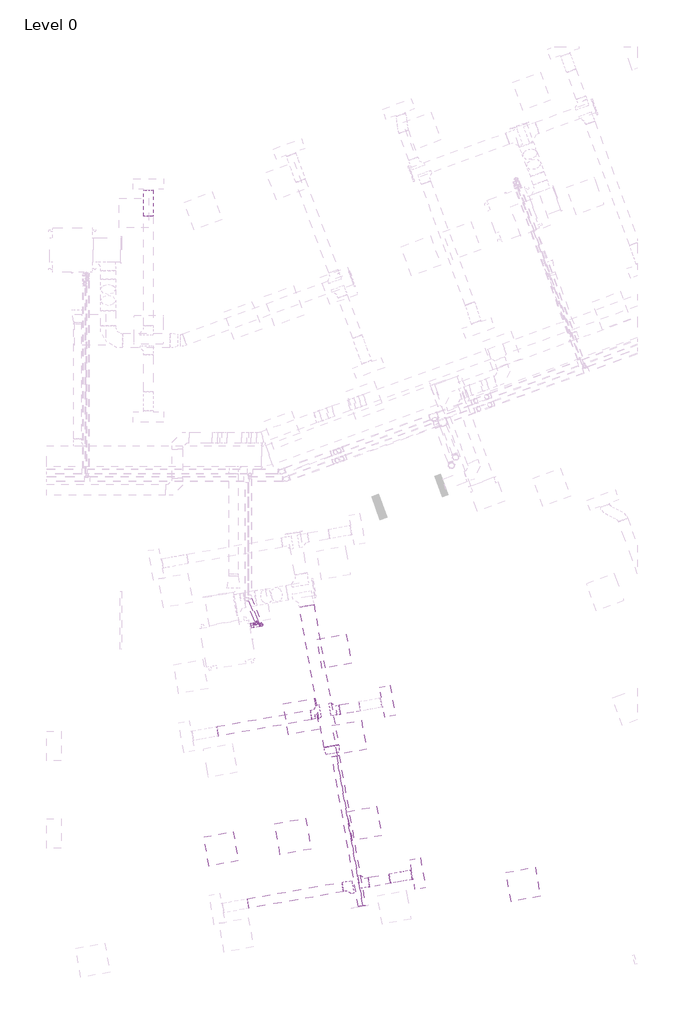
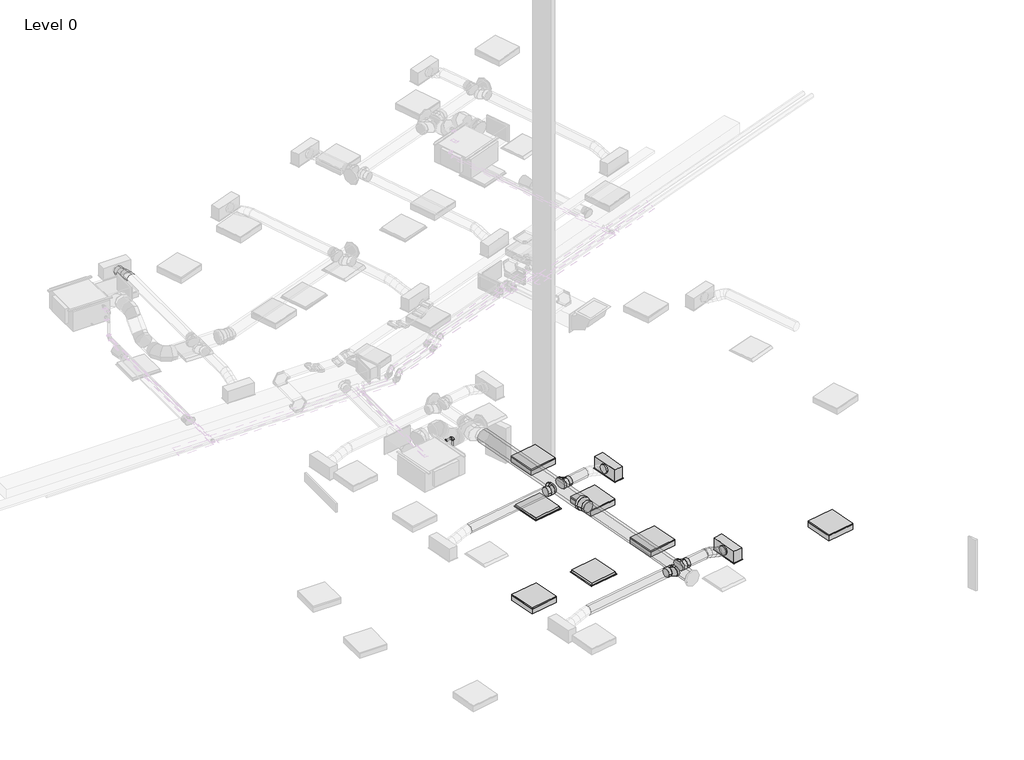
# One storey, part 18 of 34: 8 duct segments, 6 pipe fittings, 6 pipe segments, 5 duct fittings, 5 light fixtures, 4 air terminals.
"""IFC4 building model written with IfcOpenShell, lengths in millimetres."""

from ifc_helpers import new_model, si_unit, point, frame, frame_2d, origin, place, context, project, spatial, circle_curve, ellipse_curve, trimmed, segment, composite_curve, outline, extrude, transform, mapped, element, save
from ifc_brep_helpers import plane_surface, cylinder_surface, advanced_brep
from components import return_grille_rectangular_hosted_standard_7b12617c, supply_diffuser_with_plenum_linear_slot_hosted_8e4f2f20, dw144_round_shoe_branch_slip_joint1_standard_2_15a2edd8, dw144_round_shoe_branch_slip_joint1_standard_2_3a899113, dw144_round_taper_slip_joint_standard_7b2c0993, troffer_light_2x2_parabolic_2_x2_2_lamp_120v_6a063ff3, elbow_threaded_gmi_standard_b4aa7741, socket_reducing_threaded_gmi_standard_7a3748ab

model = new_model("IFC4")

# Units and contexts
model_context = context("Model", 3, world=origin())
ifc_project = project(units=[si_unit("LENGTHUNIT", "METRE", prefix="MILLI")], contexts=[model_context])

# Site, building, storey
site = spatial("IfcSite", under=ifc_project)
building = spatial("IfcBuilding", under=site)
storey = spatial("IfcBuildingStorey", under=building, Name="Level 0", Elevation=0.0)

# Air terminals
placement = place(None, origin())
return_grille_rectangular_hosted_standard_shape = return_grille_rectangular_hosted_standard_7b12617c(model_context)
element("IfcAirTerminal", 1, ObjectType="Return Grille - Rectangular - Hosted : Standard", at=placement, inside=storey, context=model_context, shape_type="MappedRepresentation", body=[
    mapped(return_grille_rectangular_hosted_standard_shape, transform((33736.3792363, 1334.082517, 2800.0), x_axis=(0.9848077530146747, 0.17364817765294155, 0.0), y_axis=(0.17364817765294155, -0.9848077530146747, 0.0), z_axis=(0.0, 0.0, -1.0))),
])
element("IfcAirTerminal", 2, ObjectType="Return Grille - Rectangular - Hosted : Standard", at=placement, inside=storey, context=model_context, shape_type="MappedRepresentation", body=[
    mapped(return_grille_rectangular_hosted_standard_shape, transform((33910.5082617, 3801.8100308, 2800.0), x_axis=(0.9848077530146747, 0.17364817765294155, 0.0), y_axis=(0.17364817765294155, -0.9848077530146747, 0.0), z_axis=(0.0, 0.0, -1.0))),
])
supply_diffuser_with_plenum_linear_slot_hosted_shape = supply_diffuser_with_plenum_linear_slot_hosted_8e4f2f20(model_context)
element("IfcAirTerminal", 3, ObjectType="Supply Diffuser with Plenum - Linear Slot - Hosted : 24\" x 8\"-200 In Inlet  4-Slot", at=placement, inside=storey, context=model_context, shape_type="MappedRepresentation", body=[
    mapped(supply_diffuser_with_plenum_linear_slot_hosted_shape, transform((35683.1622171, 4114.3767506, 2800.0), x_axis=(0.1736481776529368, -0.9848077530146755, 0.0), y_axis=(-0.9848077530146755, -0.1736481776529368, 0.0), z_axis=(0.0, 0.0, -1.0))),
])
element("IfcAirTerminal", 4, ObjectType="Supply Diffuser with Plenum - Linear Slot - Hosted : 24\" x 8\"-200 In Inlet  4-Slot", at=placement, inside=storey, context=model_context, shape_type="MappedRepresentation", body=[
    mapped(supply_diffuser_with_plenum_linear_slot_hosted_shape, transform((36308.2956567, 569.0688397, 2800.0), x_axis=(0.1736481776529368, -0.9848077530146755, 0.0), y_axis=(-0.9848077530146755, -0.1736481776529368, 0.0), z_axis=(0.0, 0.0, -1.0))),
])

# Duct fittings
dw144_round_shoe_branch_slip_joint1_standard_2_shape = dw144_round_shoe_branch_slip_joint1_standard_2_15a2edd8(model_context)
element("IfcDuctFitting", 5, ObjectType="DW144 Round Shoe Branch - Slip Joint1 : Standard 2", at=placement, inside=storey, context=model_context, shape_type="MappedRepresentation", body=[
    mapped(dw144_round_shoe_branch_slip_joint1_standard_2_shape, transform((35154.4321897, 365.6115785, 3072.2088531), x_axis=(0.9848077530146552, 0.17364817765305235, 0.0), y_axis=(0.17364817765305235, -0.9848077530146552, 0.0), z_axis=(0.0, 0.0, -1.0))),
])
element("IfcDuctFitting", 6, ObjectType="DW144 Round Shoe Branch - Slip Joint1 : Standard 2", at=placement, inside=storey, context=model_context, shape_type="MappedRepresentation", body=[
    mapped(dw144_round_shoe_branch_slip_joint1_standard_2_shape, transform((34908.2302515, 322.1995341, 3072.2088531), x_axis=(-0.9848077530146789, -0.17364817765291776, 0.0), y_axis=(-0.17364817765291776, 0.9848077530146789, 0.0), z_axis=(0.0, 0.0, -1.0))),
])
dw144_round_shoe_branch_slip_joint1_standard_2_2_shape = dw144_round_shoe_branch_slip_joint1_standard_2_3a899113(model_context)
element("IfcDuctFitting", 7, ObjectType="DW144 Round Shoe Branch - Slip Joint1 : Standard 2", at=placement, inside=storey, context=model_context, shape_type="MappedRepresentation", body=[
    mapped(dw144_round_shoe_branch_slip_joint1_standard_2_2_shape, transform((34258.4766181, 3863.1662405, 3072.2088531), x_axis=(-0.9848077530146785, -0.17364817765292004, 0.0), y_axis=(0.17364817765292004, -0.9848077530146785, 0.0), z_axis=(0.0, 0.0, 1.0))),
])
element("IfcDuctFitting", 8, ObjectType="DW144 Round Shoe Branch - Slip Joint1 : Standard 2", at=placement, inside=storey, context=model_context, shape_type="MappedRepresentation", body=[
    mapped(dw144_round_shoe_branch_slip_joint1_standard_2_2_shape, transform((34553.918944, 3915.2606938, 3072.2088531), x_axis=(0.9848077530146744, 0.17364817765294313, 0.0), y_axis=(0.17364817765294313, -0.9848077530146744, 0.0), z_axis=(0.0, 0.0, -1.0))),
])
dw144_round_taper_slip_joint_standard_shape = dw144_round_taper_slip_joint_standard_7b2c0993(model_context)
element("IfcDuctFitting", 9, ObjectType="DW144 Round Taper - Slip Joint : Standard", at=placement, inside=storey, context=model_context, shape_type="MappedRepresentation", body=[
    mapped(dw144_round_taper_slip_joint_standard_shape, transform((34529.2296476, 3191.465079, 3072.2088531), x_axis=(0.17364817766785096, -0.9848077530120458, 0.0), y_axis=(0.9848077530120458, 0.17364817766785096, 0.0), z_axis=(0.0, 0.0, 1.0))),
])

# Duct segments
element("IfcDuctSegment", 10, ObjectType="DW144 Segmented Bend / Shoe Branch", at=placement, inside=storey, context=model_context, shape_type="SweptSolid", body=[
    extrude(outline(composite_curve([segment(trimmed(circle_curve(frame_2d((0.0, -125.0)), 125.0), [point((-125.0, -125.0))], [point((0.0, 0.0))], False, "CARTESIAN"), True, "CONTINUOUS"), segment(trimmed(circle_curve(frame_2d((0.0, -125.0)), 125.0), [point((0.0, 0.0))], [point((125.0, -125.0))], False, "CARTESIAN"), True, "CONTINUOUS"), segment(trimmed(circle_curve(frame_2d((0.0, -125.0)), 125.0), [point((125.0, -125.0))], [point((0.0, -250.0))], False, "CARTESIAN"), True, "CONTINUOUS"), segment(trimmed(circle_curve(frame_2d((0.0, -125.0)), 125.0), [point((0.0, -250.0))], [point((-125.0, -125.0))], False, "CARTESIAN"), True, "CONTINUOUS")], self_intersect=False)), frame((35110.8297064, -106.9527609, 2947.2088531), z_axis=(-0.17364817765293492, 0.9848077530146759, 0.0), x_axis=(0.9848077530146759, 0.17364817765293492, 0.0)), (0.0, 0.0, 1.0), 3135.9999815),
])
element("IfcDuctSegment", 11, ObjectType="DW144 Segmented Bend / Shoe Branch", at=placement, inside=storey, context=model_context, shape_type="SweptSolid", body=[
    extrude(outline(composite_curve([segment(trimmed(circle_curve(frame_2d((0.0, 100.0)), 100.0), [point((100.0, 100.0))], [point((0.0, 0.0))], False, "CARTESIAN"), True, "CONTINUOUS"), segment(trimmed(circle_curve(frame_2d((0.0, 100.0)), 100.0), [point((0.0, 0.0))], [point((-100.0, 100.0))], False, "CARTESIAN"), True, "CONTINUOUS"), segment(trimmed(circle_curve(frame_2d((0.0, 100.0)), 100.0), [point((-100.0, 100.0))], [point((0.0, 200.0))], False, "CARTESIAN"), True, "CONTINUOUS"), segment(trimmed(circle_curve(frame_2d((0.0, 100.0)), 100.0), [point((0.0, 200.0))], [point((100.0, 100.0))], False, "CARTESIAN"), True, "CONTINUOUS")], self_intersect=False)), frame((34701.640107, 3941.3079204, 3172.2088531), z_axis=(0.9848077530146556, 0.1736481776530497, 0.0), x_axis=(0.1736481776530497, -0.9848077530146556, 0.0)), (0.0, 0.0, 1.0), 410.0),
])
element("IfcDuctSegment", 12, ObjectType="DW144 Segmented Bend / Shoe Branch", at=placement, inside=storey, context=model_context, shape_type="SweptSolid", body=[
    extrude(outline(composite_curve([segment(trimmed(circle_curve(frame_2d((0.0, -100.0)), 100.0), [point((-100.0, -100.0))], [point((0.0, 0.0))], False, "CARTESIAN"), True, "CONTINUOUS"), segment(trimmed(circle_curve(frame_2d((0.0, -100.0)), 100.0), [point((0.0, 0.0))], [point((100.0, -100.0))], False, "CARTESIAN"), True, "CONTINUOUS"), segment(trimmed(circle_curve(frame_2d((0.0, -100.0)), 100.0), [point((100.0, -100.0))], [point((0.0, -200.0))], False, "CARTESIAN"), True, "CONTINUOUS"), segment(trimmed(circle_curve(frame_2d((0.0, -100.0)), 100.0), [point((0.0, -200.0))], [point((-100.0, -100.0))], False, "CARTESIAN"), True, "CONTINUOUS")], self_intersect=False)), frame((32190.3803368, 3498.5050674, 2972.2088531), z_axis=(0.9848077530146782, 0.17364817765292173, 0.0), x_axis=(0.17364817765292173, -0.9848077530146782, 0.0)), (0.0, 0.0, 1.0), 1950.0),
])
element("IfcDuctSegment", 13, ObjectType="DW144 Segmented Bend / Shoe Branch", at=placement, inside=storey, context=model_context, shape_type="SweptSolid", body=[
    extrude(outline(composite_curve([segment(trimmed(circle_curve(frame_2d((0.0, -150.0)), 150.0), [point((-150.0, -150.0))], [point((0.0, 0.0))], False, "CARTESIAN"), True, "CONTINUOUS"), segment(trimmed(circle_curve(frame_2d((0.0, -150.0)), 150.0), [point((0.0, 0.0))], [point((150.0, -150.0))], False, "CARTESIAN"), True, "CONTINUOUS"), segment(trimmed(circle_curve(frame_2d((0.0, -150.0)), 150.0), [point((150.0, -150.0))], [point((0.0, -300.0))], False, "CARTESIAN"), True, "CONTINUOUS"), segment(trimmed(circle_curve(frame_2d((0.0, -150.0)), 150.0), [point((0.0, -300.0))], [point((-150.0, -150.0))], False, "CARTESIAN"), True, "CONTINUOUS")], self_intersect=False)), frame((34529.2296476, 3191.465079, 2922.2088531), z_axis=(-0.17364817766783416, 0.9848077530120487, 0.0), x_axis=(0.9848077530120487, 0.17364817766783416, 0.0)), (0.0, 0.0, 1.0), 2934.6959585),
])
element("IfcDuctSegment", 14, ObjectType="DW144 Segmented Bend / Shoe Branch", at=placement, inside=storey, context=model_context, shape_type="SweptSolid", body=[
    extrude(outline(composite_curve([segment(trimmed(circle_curve(frame_2d((0.0, -100.0)), 100.0), [point((-100.0, -100.0))], [point((0.0, 0.0))], False, "CARTESIAN"), True, "CONTINUOUS"), segment(trimmed(circle_curve(frame_2d((0.0, -100.0)), 100.0), [point((0.0, 0.0))], [point((100.0, -100.0))], False, "CARTESIAN"), True, "CONTINUOUS"), segment(trimmed(circle_curve(frame_2d((0.0, -100.0)), 100.0), [point((100.0, -100.0))], [point((0.0, -200.0))], False, "CARTESIAN"), True, "CONTINUOUS"), segment(trimmed(circle_curve(frame_2d((0.0, -100.0)), 100.0), [point((0.0, -200.0))], [point((-100.0, -100.0))], False, "CARTESIAN"), True, "CONTINUOUS")], self_intersect=False)), frame((35302.1533527, 391.6588051, 2972.2088531), z_axis=(0.9848077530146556, 0.17364817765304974, 0.0), x_axis=(0.17364817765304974, -0.9848077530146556, 0.0)), (0.0, 0.0, 1.0), 435.0),
])
element("IfcDuctSegment", 15, ObjectType="DW144 Segmented Bend / Shoe Branch", at=placement, inside=storey, context=model_context, shape_type="SweptSolid", body=[
    extrude(outline(composite_curve([segment(trimmed(circle_curve(frame_2d((0.0, 100.0)), 100.0), [point((100.0, 100.0))], [point((0.0, 0.0))], False, "CARTESIAN"), True, "CONTINUOUS"), segment(trimmed(circle_curve(frame_2d((0.0, 100.0)), 100.0), [point((0.0, 0.0))], [point((-100.0, 100.0))], False, "CARTESIAN"), True, "CONTINUOUS"), segment(trimmed(circle_curve(frame_2d((0.0, 100.0)), 100.0), [point((-100.0, 100.0))], [point((0.0, 200.0))], False, "CARTESIAN"), True, "CONTINUOUS"), segment(trimmed(circle_curve(frame_2d((0.0, 100.0)), 100.0), [point((0.0, 200.0))], [point((100.0, 100.0))], False, "CARTESIAN"), True, "CONTINUOUS")], self_intersect=False)), frame((32815.5137763, -46.8028435, 3172.2088531), z_axis=(0.9848077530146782, 0.17364817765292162, 0.0), x_axis=(0.17364817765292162, -0.9848077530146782, 0.0)), (0.0, 0.0, 1.0), 1975.0),
])
element("IfcDuctSegment", 16, ObjectType="Flex - Round", at=placement, inside=storey, context=model_context, shape_type="AdvancedBrep", body=[
    advanced_brep(
    [(30662.2000027, 14100.4916128, 3072.2088531), (30762.2000027, 14100.4916128, 2972.2088531), (30862.2000027, 14100.4916128, 3072.2088531), (30762.2000027, 14100.4916128, 3172.2088531), (30662.2000027, 14114.0357302, 3072.2088531), (30762.2000027, 14106.4797066, 2972.2088531), (30862.2000027, 14114.0357302, 3072.2088531), (30762.2000027, 14121.5917538, 3172.2088531), (30662.2000027, 14634.3000004, 2954.4), (30762.2000027, 14634.3000004, 3054.4), (30862.2000027, 14634.3000004, 2954.4), (30762.2000027, 14634.3000004, 2854.4), (30662.2000027, 14235.1479623, 3053.8012198), (30762.2000027, 14212.875909, 2956.0378831), (30862.2000027, 14235.1479623, 3053.8012198), (30762.2000027, 14257.4200155, 3151.5645566), (30662.2000027, 14367.3958066, 3013.3044266), (30762.2000027, 14338.1159448, 2917.6870134), (30862.2000027, 14367.3958066, 3013.3044266), (30762.2000027, 14396.6756684, 3108.9218397), (30662.2000027, 14499.643651, 2972.8076333), (30762.2000027, 14477.3715977, 2875.0442965), (30862.2000027, 14499.643651, 2972.8076333), (30762.2000027, 14521.9157042, 3070.5709701), (30662.2000027, 14620.755883, 2954.4), (30762.2000027, 14613.1998594, 2854.4), (30862.2000027, 14620.755883, 2954.4), (30762.2000027, 14628.3119066, 3054.4)],
    [
        (0, 1, circle_curve(frame((30762.2000027, 14100.4916128, 3072.2088531), z_axis=(0.0, -1.0, 0.0), x_axis=(-1.0, 0.0, 0.0)), 100.0)),
        (1, 2, circle_curve(frame((30762.2000027, 14100.4916128, 3072.2088531), z_axis=(0.0, -1.0, 0.0), x_axis=(-1.0, 0.0, 0.0)), 100.0)),
        (2, 3, circle_curve(frame((30762.2000027, 14100.4916128, 3072.2088531), z_axis=(0.0, -1.0, 0.0), x_axis=(-1.0, 0.0, 0.0)), 100.0)),
        (3, 0, circle_curve(frame((30762.2000027, 14100.4916128, 3072.2088531), z_axis=(0.0, -1.0, 0.0), x_axis=(-1.0, 0.0, 0.0)), 100.0)),
        (0, 4),
        (4, 5, ellipse_curve(frame((30762.2000027, 14114.0357302, 3072.2088531), z_axis=(0.0, -0.9971574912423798, 0.07534545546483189), x_axis=(0.0, -0.0753454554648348, -0.9971574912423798)), 100.2850612, 100.0)),
        (5, 1),
        (5, 6, ellipse_curve(frame((30762.2000027, 14114.0357302, 3072.2088531), z_axis=(0.0, -0.9971574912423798, 0.07534545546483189), x_axis=(0.0, -0.0753454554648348, -0.9971574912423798)), 100.2850612, 100.0)),
        (6, 2),
        (6, 7, ellipse_curve(frame((30762.2000027, 14114.0357302, 3072.2088531), z_axis=(0.0, -0.9971574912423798, 0.07534545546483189), x_axis=(0.0, -0.0753454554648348, -0.9971574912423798)), 100.2850612, 100.0)),
        (7, 3),
        (7, 4, ellipse_curve(frame((30762.2000027, 14114.0357302, 3072.2088531), z_axis=(0.0, -0.9971574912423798, 0.07534545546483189), x_axis=(0.0, -0.0753454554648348, -0.9971574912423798)), 100.2850612, 100.0)),
        (8, 9, circle_curve(frame((30762.2000027, 14634.3000004, 2954.4), z_axis=(0.0, 1.0, 0.0), x_axis=(-1.0, 0.0, 0.0)), 100.0)),
        (9, 10, circle_curve(frame((30762.2000027, 14634.3000004, 2954.4), z_axis=(0.0, 1.0, 0.0), x_axis=(-1.0, 0.0, 0.0)), 100.0)),
        (10, 11, circle_curve(frame((30762.2000027, 14634.3000004, 2954.4), z_axis=(0.0, 1.0, 0.0), x_axis=(-1.0, 0.0, 0.0)), 100.0)),
        (11, 8, circle_curve(frame((30762.2000027, 14634.3000004, 2954.4), z_axis=(0.0, 1.0, 0.0), x_axis=(-1.0, 0.0, 0.0)), 100.0)),
        (4, 12),
        (12, 13, ellipse_curve(frame((30762.2000027, 14235.1479623, 3053.8012198), z_axis=(0.0, -0.9750182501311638, 0.22212476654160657), x_axis=(0.0, -0.22212476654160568, -0.9750182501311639)), 100.2682122, 100.0)),
        (13, 5),
        (13, 14, ellipse_curve(frame((30762.2000027, 14235.1479623, 3053.8012198), z_axis=(0.0, -0.9750182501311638, 0.22212476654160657), x_axis=(0.0, -0.22212476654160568, -0.9750182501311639)), 100.2682122, 100.0)),
        (14, 6),
        (14, 15, ellipse_curve(frame((30762.2000027, 14235.1479623, 3053.8012198), z_axis=(0.0, -0.9750182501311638, 0.22212476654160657), x_axis=(0.0, -0.22212476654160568, -0.9750182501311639)), 100.2682122, 100.0)),
        (15, 7),
        (15, 12, ellipse_curve(frame((30762.2000027, 14235.1479623, 3053.8012198), z_axis=(0.0, -0.9750182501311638, 0.22212476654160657), x_axis=(0.0, -0.22212476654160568, -0.9750182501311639)), 100.2682122, 100.0)),
        (12, 16),
        (16, 17, circle_curve(frame((30762.2000027, 14367.3958066, 3013.3044266), z_axis=(0.0, -0.9561741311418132, 0.29279861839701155), x_axis=(-1.0, 0.0, 0.0)), 100.0)),
        (17, 13),
        (17, 18, circle_curve(frame((30762.2000027, 14367.3958066, 3013.3044266), z_axis=(0.0, -0.9561741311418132, 0.29279861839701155), x_axis=(-1.0, 0.0, 0.0)), 100.0)),
        (18, 14),
        (18, 19, circle_curve(frame((30762.2000027, 14367.3958066, 3013.3044266), z_axis=(0.0, -0.9561741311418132, 0.29279861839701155), x_axis=(-1.0, 0.0, 0.0)), 100.0)),
        (19, 15),
        (19, 16, circle_curve(frame((30762.2000027, 14367.3958066, 3013.3044266), z_axis=(0.0, -0.9561741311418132, 0.29279861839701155), x_axis=(-1.0, 0.0, 0.0)), 100.0)),
        (16, 20),
        (20, 21, ellipse_curve(frame((30762.2000027, 14499.643651, 2972.8076333), z_axis=(0.0, -0.9750182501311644, 0.2221247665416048), x_axis=(0.0, 0.22212476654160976, 0.9750182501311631)), 100.2682122, 100.0)),
        (21, 17),
        (21, 22, ellipse_curve(frame((30762.2000027, 14499.643651, 2972.8076333), z_axis=(0.0, -0.9750182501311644, 0.2221247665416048), x_axis=(0.0, 0.22212476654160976, 0.9750182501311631)), 100.2682122, 100.0)),
        (22, 18),
        (22, 23, ellipse_curve(frame((30762.2000027, 14499.643651, 2972.8076333), z_axis=(0.0, -0.9750182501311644, 0.2221247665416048), x_axis=(0.0, 0.22212476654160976, 0.9750182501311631)), 100.2682122, 100.0)),
        (23, 19),
        (23, 20, ellipse_curve(frame((30762.2000027, 14499.643651, 2972.8076333), z_axis=(0.0, -0.9750182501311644, 0.2221247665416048), x_axis=(0.0, 0.22212476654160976, 0.9750182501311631)), 100.2682122, 100.0)),
        (20, 24),
        (24, 25, ellipse_curve(frame((30762.2000027, 14620.755883, 2954.4), z_axis=(0.0, -0.9971574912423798, 0.07534545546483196), x_axis=(0.0, 0.07534545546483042, 0.9971574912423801)), 100.2850612, 100.0)),
        (25, 21),
        (25, 26, ellipse_curve(frame((30762.2000027, 14620.755883, 2954.4), z_axis=(0.0, -0.9971574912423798, 0.07534545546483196), x_axis=(0.0, 0.07534545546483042, 0.9971574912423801)), 100.2850612, 100.0)),
        (26, 22),
        (26, 27, ellipse_curve(frame((30762.2000027, 14620.755883, 2954.4), z_axis=(0.0, -0.9971574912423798, 0.07534545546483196), x_axis=(0.0, 0.07534545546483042, 0.9971574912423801)), 100.2850612, 100.0)),
        (27, 23),
        (27, 24, ellipse_curve(frame((30762.2000027, 14620.755883, 2954.4), z_axis=(0.0, -0.9971574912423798, 0.07534545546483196), x_axis=(0.0, 0.07534545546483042, 0.9971574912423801)), 100.2850612, 100.0)),
        (24, 8),
        (11, 25),
        (10, 26),
        (9, 27),
    ],
    [
        plane_surface(frame((30662.2000027, 14100.4916128, 3072.2088531), z_axis=(0.0, -1.0, 0.0), x_axis=(0.0, 0.0, 1.0))),
        cylinder_surface(frame((30762.2000027, 14100.4916128, 3072.2088531), z_axis=(0.0, -1.0, 0.0), x_axis=(-1.0, 0.0, 0.0)), 100.0),
        plane_surface(frame((30662.2000027, 14634.3000004, 2954.4), z_axis=(0.0, 1.0, 0.0), x_axis=(0.0, 0.0, 1.0))),
        cylinder_surface(frame((30762.2000027, 14114.0357302, 3072.2088531), z_axis=(0.0, -0.9886461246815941, 0.15026257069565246), x_axis=(-1.0, 0.0, 0.0)), 100.0),
        cylinder_surface(frame((30762.2000027, 14235.1479623, 3053.8012198), z_axis=(0.0, -0.9561741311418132, 0.29279861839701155), x_axis=(-1.0, 0.0, 0.0)), 100.0),
        cylinder_surface(frame((30762.2000027, 14367.3958066, 3013.3044266), z_axis=(0.0, -0.9561741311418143, 0.29279861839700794), x_axis=(-1.0, 0.0, 0.0)), 100.0),
        cylinder_surface(frame((30762.2000027, 14499.643651, 2972.8076333), z_axis=(0.0, -0.9886461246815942, 0.15026257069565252), x_axis=(-1.0, 0.0, 0.0)), 100.0),
        cylinder_surface(frame((30762.2000027, 14620.755883, 2954.4), z_axis=(0.0, -1.0, 0.0), x_axis=(-1.0, 0.0, 0.0)), 100.0),
    ],
    [
        (0, [[1, 2, 3, 4]]),
        (1, [[-1, 5, 6, 7]]),
        (1, [[-2, -7, 8, 9]]),
        (1, [[-3, -9, 10, 11]]),
        (1, [[-4, -11, 12, -5]]),
        (2, [[13, 14, 15, 16]]),
        (3, [[-6, 17, 18, 19]]),
        (3, [[-8, -19, 20, 21]]),
        (3, [[-10, -21, 22, 23]]),
        (3, [[-12, -23, 24, -17]]),
        (4, [[-18, 25, 26, 27]]),
        (4, [[-20, -27, 28, 29]]),
        (4, [[-22, -29, 30, 31]]),
        (4, [[-24, -31, 32, -25]]),
        (5, [[-26, 33, 34, 35]]),
        (5, [[-28, -35, 36, 37]]),
        (5, [[-30, -37, 38, 39]]),
        (5, [[-32, -39, 40, -33]]),
        (6, [[-34, 41, 42, 43]]),
        (6, [[-36, -43, 44, 45]]),
        (6, [[-38, -45, 46, 47]]),
        (6, [[-40, -47, 48, -41]]),
        (7, [[-42, 49, -16, 50]]),
        (7, [[-44, -50, -15, 51]]),
        (7, [[-46, -51, -14, 52]]),
        (7, [[-48, -52, -13, -49]]),
    ],
),
])
element("IfcDuctSegment", 17, ObjectType="Flex - Round", at=placement, inside=storey, context=model_context, shape_type="AdvancedBrep", body=[
    advanced_brep(
    [(35713.1799075, 565.6765377, 3072.2088531), (35730.5447252, 467.1957624, 2972.2088531), (35747.909543, 368.7149871, 3072.2088531), (35730.5447252, 467.1957624, 3172.2088531), (35728.6352342, 568.4017288, 3072.2088531), (35737.0244208, 468.3383075, 2972.2088531), (35763.3648697, 371.4401782, 3072.2088531), (35754.9756831, 471.5035994, 3172.2088531), (36163.9891196, 645.1663649, 2954.4), (36181.3539373, 546.6855896, 3054.4), (36198.7187551, 448.2048143, 2954.4), (36181.3539373, 546.6855896, 2854.4), (35827.2593833, 585.7918272, 3053.8012198), (35818.9473638, 482.7835327, 2956.9184044), (35861.9890189, 388.8302766, 3053.8012198), (35870.3010384, 491.8385711, 3150.6840352), (35938.5845135, 605.4214513, 3013.3044266), (35922.7361411, 501.0842945, 2919.1631137), (35973.3141491, 408.4599007, 3013.3044266), (35989.1625214, 512.7970575, 3107.4457395), (36049.9096437, 625.0510754, 2972.8076333), (36041.5976242, 522.0427809, 2875.9248179), (36084.6392793, 428.0895248, 2972.8076333), (36092.9512988, 531.0978193, 3069.6904487), (36148.5337929, 642.4411738, 2954.4), (36156.9229795, 542.3777526, 2854.4), (36183.2634284, 445.4796232, 2954.4), (36174.8742418, 545.5430445, 3054.4)],
    [
        (0, 1, circle_curve(frame((35730.5447252, 467.1957624, 3072.2088531), z_axis=(-0.9848077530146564, -0.17364817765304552, 0.0), x_axis=(-0.17364817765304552, 0.9848077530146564, 0.0)), 100.0)),
        (1, 2, circle_curve(frame((35730.5447252, 467.1957624, 3072.2088531), z_axis=(-0.9848077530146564, -0.17364817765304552, 0.0), x_axis=(-0.17364817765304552, 0.9848077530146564, 0.0)), 100.0)),
        (2, 3, circle_curve(frame((35730.5447252, 467.1957624, 3072.2088531), z_axis=(-0.9848077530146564, -0.17364817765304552, 0.0), x_axis=(-0.17364817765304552, 0.9848077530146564, 0.0)), 100.0)),
        (3, 0, circle_curve(frame((35730.5447252, 467.1957624, 3072.2088531), z_axis=(-0.9848077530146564, -0.17364817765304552, 0.0), x_axis=(-0.17364817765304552, 0.9848077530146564, 0.0)), 100.0)),
        (0, 4),
        (4, 5, ellipse_curve(frame((35746.000052, 469.9209535, 3072.2088531), z_axis=(-0.9807428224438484, -0.17293142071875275, 0.09076475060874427), x_axis=(-0.08938583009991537, -0.015761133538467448, -0.9958723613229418)), 100.4144747, 100.0)),
        (5, 1),
        (5, 6, ellipse_curve(frame((35746.000052, 469.9209535, 3072.2088531), z_axis=(-0.9807428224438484, -0.17293142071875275, 0.09076475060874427), x_axis=(-0.08938583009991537, -0.015761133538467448, -0.9958723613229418)), 100.4144747, 100.0)),
        (6, 2),
        (6, 7, ellipse_curve(frame((35746.000052, 469.9209535, 3072.2088531), z_axis=(-0.9807428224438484, -0.17293142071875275, 0.09076475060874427), x_axis=(-0.08938583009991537, -0.015761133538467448, -0.9958723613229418)), 100.4144747, 100.0)),
        (7, 3),
        (7, 4, ellipse_curve(frame((35746.000052, 469.9209535, 3072.2088531), z_axis=(-0.9807428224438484, -0.17293142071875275, 0.09076475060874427), x_axis=(-0.08938583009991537, -0.015761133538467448, -0.9958723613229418)), 100.4144747, 100.0)),
        (8, 9, circle_curve(frame((36181.3539373, 546.6855896, 2954.4), z_axis=(0.9848077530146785, 0.17364817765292, 0.0), x_axis=(-0.17364817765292, 0.9848077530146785, 0.0)), 100.0)),
        (9, 10, circle_curve(frame((36181.3539373, 546.6855896, 2954.4), z_axis=(0.9848077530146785, 0.17364817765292, 0.0), x_axis=(-0.17364817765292, 0.9848077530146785, 0.0)), 100.0)),
        (10, 11, circle_curve(frame((36181.3539373, 546.6855896, 2954.4), z_axis=(0.9848077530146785, 0.17364817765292, 0.0), x_axis=(-0.17364817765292, 0.9848077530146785, 0.0)), 100.0)),
        (11, 8, circle_curve(frame((36181.3539373, 546.6855896, 2954.4), z_axis=(0.9848077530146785, 0.17364817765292, 0.0), x_axis=(-0.17364817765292, 0.9848077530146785, 0.0)), 100.0)),
        (4, 12),
        (12, 13, ellipse_curve(frame((35844.6242011, 487.3110519, 3053.8012198), z_axis=(-0.9509727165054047, -0.16768214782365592, 0.2598722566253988), x_axis=(-0.25592421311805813, -0.04512634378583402, -0.965643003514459)), 100.3298476, 100.0)),
        (13, 5),
        (13, 14, ellipse_curve(frame((35844.6242011, 487.3110519, 3053.8012198), z_axis=(-0.9509727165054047, -0.16768214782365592, 0.2598722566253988), x_axis=(-0.25592421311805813, -0.04512634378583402, -0.965643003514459)), 100.3298476, 100.0)),
        (14, 6),
        (14, 15, ellipse_curve(frame((35844.6242011, 487.3110519, 3053.8012198), z_axis=(-0.9509727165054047, -0.16768214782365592, 0.2598722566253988), x_axis=(-0.25592421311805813, -0.04512634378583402, -0.965643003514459)), 100.3298476, 100.0)),
        (15, 7),
        (15, 12, ellipse_curve(frame((35844.6242011, 487.3110519, 3053.8012198), z_axis=(-0.9509727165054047, -0.16768214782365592, 0.2598722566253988), x_axis=(-0.25592421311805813, -0.04512634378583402, -0.965643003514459)), 100.3298476, 100.0)),
        (12, 16),
        (16, 17, circle_curve(frame((35955.9493313, 506.940676, 3013.3044266), z_axis=(-0.9271109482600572, -0.16347467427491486, 0.3372555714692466), x_axis=(-0.17364817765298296, 0.9848077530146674, 0.0)), 100.0)),
        (17, 13),
        (17, 18, circle_curve(frame((35955.9493313, 506.940676, 3013.3044266), z_axis=(-0.9271109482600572, -0.16347467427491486, 0.3372555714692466), x_axis=(-0.17364817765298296, 0.9848077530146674, 0.0)), 100.0)),
        (18, 14),
        (18, 19, circle_curve(frame((35955.9493313, 506.940676, 3013.3044266), z_axis=(-0.9271109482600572, -0.16347467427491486, 0.3372555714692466), x_axis=(-0.17364817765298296, 0.9848077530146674, 0.0)), 100.0)),
        (19, 15),
        (19, 16, circle_curve(frame((35955.9493313, 506.940676, 3013.3044266), z_axis=(-0.9271109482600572, -0.16347467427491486, 0.3372555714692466), x_axis=(-0.17364817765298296, 0.9848077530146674, 0.0)), 100.0)),
        (16, 20),
        (20, 21, ellipse_curve(frame((36067.2744615, 526.5703001, 2972.8076333), z_axis=(-0.9509727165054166, -0.1676821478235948, 0.2598722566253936), x_axis=(0.2559242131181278, 0.04512634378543, 0.9656430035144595)), 100.3298476, 100.0)),
        (21, 17),
        (21, 22, ellipse_curve(frame((36067.2744615, 526.5703001, 2972.8076333), z_axis=(-0.9509727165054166, -0.1676821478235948, 0.2598722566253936), x_axis=(0.2559242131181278, 0.04512634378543, 0.9656430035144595)), 100.3298476, 100.0)),
        (22, 18),
        (22, 23, ellipse_curve(frame((36067.2744615, 526.5703001, 2972.8076333), z_axis=(-0.9509727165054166, -0.1676821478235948, 0.2598722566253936), x_axis=(0.2559242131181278, 0.04512634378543, 0.9656430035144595)), 100.3298476, 100.0)),
        (23, 19),
        (23, 20, ellipse_curve(frame((36067.2744615, 526.5703001, 2972.8076333), z_axis=(-0.9509727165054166, -0.1676821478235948, 0.2598722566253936), x_axis=(0.2559242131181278, 0.04512634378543, 0.9656430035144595)), 100.3298476, 100.0)),
        (20, 24),
        (24, 25, ellipse_curve(frame((36165.8986106, 543.9603985, 2954.4), z_axis=(-0.9807428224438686, -0.17293142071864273, 0.09076475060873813), x_axis=(0.08938583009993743, 0.01576113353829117, 0.9958723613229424)), 100.4144747, 100.0)),
        (25, 21),
        (25, 26, ellipse_curve(frame((36165.8986106, 543.9603985, 2954.4), z_axis=(-0.9807428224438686, -0.17293142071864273, 0.09076475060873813), x_axis=(0.08938583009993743, 0.01576113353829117, 0.9958723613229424)), 100.4144747, 100.0)),
        (26, 22),
        (26, 27, ellipse_curve(frame((36165.8986106, 543.9603985, 2954.4), z_axis=(-0.9807428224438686, -0.17293142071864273, 0.09076475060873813), x_axis=(0.08938583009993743, 0.01576113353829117, 0.9958723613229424)), 100.4144747, 100.0)),
        (27, 23),
        (27, 24, ellipse_curve(frame((36165.8986106, 543.9603985, 2954.4), z_axis=(-0.9807428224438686, -0.17293142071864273, 0.09076475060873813), x_axis=(0.08938583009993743, 0.01576113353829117, 0.9958723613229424)), 100.4144747, 100.0)),
        (24, 8),
        (11, 25),
        (10, 26),
        (9, 27),
    ],
    [
        plane_surface(frame((35730.5447252, 467.1957624, 3172.2088531), z_axis=(-0.9848077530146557, -0.17364817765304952, 0.0), x_axis=(0.17364817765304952, -0.9848077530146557, 0.0))),
        cylinder_surface(frame((35730.5447252, 467.1957624, 3072.2088531), z_axis=(-0.9848077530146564, -0.17364817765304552, 0.0), x_axis=(-0.17364817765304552, 0.9848077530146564, 0.0)), 100.0),
        plane_surface(frame((36181.3539373, 546.6855896, 3054.4), z_axis=(0.9848077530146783, 0.1736481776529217, 0.0), x_axis=(0.1736481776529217, -0.9848077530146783, 0.0))),
        cylinder_surface(frame((35746.000052, 469.9209535, 3072.2088531), z_axis=(-0.9685815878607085, -0.17078706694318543, 0.18078021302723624), x_axis=(-0.1736481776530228, 0.9848077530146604, 0.0)), 100.0),
        cylinder_surface(frame((35844.6242011, 487.3110519, 3053.8012198), z_axis=(-0.9271109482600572, -0.16347467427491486, 0.3372555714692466), x_axis=(-0.17364817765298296, 0.9848077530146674, 0.0)), 100.0),
        cylinder_surface(frame((35955.9493313, 506.940676, 3013.3044266), z_axis=(-0.9271109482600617, -0.16347467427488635, 0.3372555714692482), x_axis=(-0.17364817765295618, 0.984807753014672, 0.0)), 100.0),
        cylinder_surface(frame((36067.2744615, 526.5703001, 2972.8076333), z_axis=(-0.9685815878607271, -0.17078706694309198, 0.18078021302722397), x_axis=(-0.17364817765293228, 0.9848077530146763, 0.0)), 100.0),
        cylinder_surface(frame((36165.8986106, 543.9603985, 2954.4), z_axis=(-0.9848077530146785, -0.17364817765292, 0.0), x_axis=(-0.17364817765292, 0.9848077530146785, 0.0)), 100.0),
    ],
    [
        (0, [[1, 2, 3, 4]]),
        (1, [[-1, 5, 6, 7]]),
        (1, [[-2, -7, 8, 9]]),
        (1, [[-3, -9, 10, 11]]),
        (1, [[-4, -11, 12, -5]]),
        (2, [[13, 14, 15, 16]]),
        (3, [[-6, 17, 18, 19]]),
        (3, [[-8, -19, 20, 21]]),
        (3, [[-10, -21, 22, 23]]),
        (3, [[-12, -23, 24, -17]]),
        (4, [[-18, 25, 26, 27]]),
        (4, [[-20, -27, 28, 29]]),
        (4, [[-22, -29, 30, 31]]),
        (4, [[-24, -31, 32, -25]]),
        (5, [[-26, 33, 34, 35]]),
        (5, [[-28, -35, 36, 37]]),
        (5, [[-30, -37, 38, 39]]),
        (5, [[-32, -39, 40, -33]]),
        (6, [[-34, 41, 42, 43]]),
        (6, [[-36, -43, 44, 45]]),
        (6, [[-38, -45, 46, 47]]),
        (6, [[-40, -47, 48, -41]]),
        (7, [[-42, 49, -16, 50]]),
        (7, [[-44, -50, -15, 51]]),
        (7, [[-46, -51, -14, 52]]),
        (7, [[-48, -52, -13, -49]]),
    ],
),
])

# Light fixtures
troffer_light_2x2_parabolic_2_x2_2_lamp_120v_shape = troffer_light_2x2_parabolic_2_x2_2_lamp_120v_6a063ff3(model_context)
element("IfcLightFixture", 18, ObjectType="Troffer Light - 2x2 Parabolic : 2'x2'(2 Lamp) - 120V", at=placement, inside=storey, context=model_context, shape_type="MappedRepresentation", body=[
    mapped(troffer_light_2x2_parabolic_2_x2_2_lamp_120v_shape, transform((38532.6752979, 47.4030351, 2800.0), x_axis=(0.9848077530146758, 0.17364817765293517, 0.0), y_axis=(0.17364817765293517, -0.9848077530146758, 0.0), z_axis=(0.0, 0.0, -1.0))),
])
element("IfcLightFixture", 19, ObjectType="Troffer Light - 2x2 Parabolic : 2'x2'(2 Lamp) - 120V", at=placement, inside=storey, context=model_context, shape_type="MappedRepresentation", body=[
    mapped(troffer_light_2x2_parabolic_2_x2_2_lamp_120v_shape, transform((32311.2620601, 778.1679246, 2800.0), x_axis=(0.9848077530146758, 0.17364817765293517, 0.0), y_axis=(0.17364817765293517, -0.9848077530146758, 0.0), z_axis=(0.0, 0.0, -1.0))),
])
element("IfcLightFixture", 20, ObjectType="Troffer Light - 2x2 Parabolic : 2'x2'(2 Lamp) - 120V", at=placement, inside=storey, context=model_context, shape_type="MappedRepresentation", body=[
    mapped(troffer_light_2x2_parabolic_2_x2_2_lamp_120v_shape, transform((35265.6853191, 1299.1124575, 2800.0), x_axis=(0.9848077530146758, 0.17364817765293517, 0.0), y_axis=(0.17364817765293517, -0.9848077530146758, 0.0), z_axis=(0.0, 0.0, -1.0))),
])
element("IfcLightFixture", 21, ObjectType="Troffer Light - 2x2 Parabolic : 2'x2'(2 Lamp) - 120V", at=placement, inside=storey, context=model_context, shape_type="MappedRepresentation", body=[
    mapped(troffer_light_2x2_parabolic_2_x2_2_lamp_120v_shape, transform((34953.1185993, 3071.766413, 2800.0), x_axis=(0.9848077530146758, 0.17364817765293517, 0.0), y_axis=(0.17364817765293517, -0.9848077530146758, 0.0), z_axis=(0.0, 0.0, -1.0))),
])
element("IfcLightFixture", 22, ObjectType="Troffer Light - 2x2 Parabolic : 2'x2'(2 Lamp) - 120V", at=placement, inside=storey, context=model_context, shape_type="MappedRepresentation", body=[
    mapped(troffer_light_2x2_parabolic_2_x2_2_lamp_120v_shape, transform((34640.5518795, 4844.4203684, 2800.0), x_axis=(0.9848077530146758, 0.17364817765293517, 0.0), y_axis=(0.17364817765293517, -0.9848077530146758, 0.0), z_axis=(0.0, 0.0, -1.0))),
])

# Pipe fittings
elbow_threaded_gmi_standard_shape = elbow_threaded_gmi_standard_b4aa7741(model_context)
element("IfcPipeFitting", 23, ObjectType="Elbow - Threaded - GMI : Standard", at=placement, inside=storey, context=model_context, shape_type="MappedRepresentation", body=[
    mapped(elbow_threaded_gmi_standard_shape, transform((33091.3143524, 5683.2717682, 2893.9343179), x_axis=(0.38268343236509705, -0.9238795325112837, 0.0), y_axis=(0.0, 0.0, 1.0), z_axis=(-0.9238795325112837, -0.38268343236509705, 0.0))),
])
element("IfcPipeFitting", 24, ObjectType="Elbow - Threaded - GMI : Standard", at=placement, inside=storey, context=model_context, shape_type="MappedRepresentation", body=[
    mapped(elbow_threaded_gmi_standard_shape, transform((32989.6157295, 5716.923229, 2980.0), x_axis=(0.38268343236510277, -0.9238795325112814, 0.0), y_axis=(0.0, 0.0, 1.0), z_axis=(-0.9238795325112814, -0.38268343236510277, 0.0))),
])
element("IfcPipeFitting", 25, ObjectType="Elbow - Threaded - GMI : Standard", at=placement, inside=storey, context=model_context, shape_type="MappedRepresentation", body=[
    mapped(elbow_threaded_gmi_standard_shape, transform((33091.3143524, 5683.2717682, 3596.575), x_axis=(0.0, 0.0, 1.0), y_axis=(-0.9848077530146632, -0.17364817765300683, 0.0), z_axis=(0.17364817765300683, -0.9848077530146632, 0.0))),
])
element("IfcPipeFitting", 26, ObjectType="Elbow - Threaded - GMI : Standard", at=placement, inside=storey, context=model_context, shape_type="MappedRepresentation", body=[
    mapped(elbow_threaded_gmi_standard_shape, transform((32989.6157295, 5716.923229, 3317.175), x_axis=(0.0, 0.0, 1.0), y_axis=(-0.9848077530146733, -0.1736481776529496, 0.0), z_axis=(0.1736481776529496, -0.9848077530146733, 0.0))),
])
socket_reducing_threaded_gmi_standard_shape = socket_reducing_threaded_gmi_standard_7a3748ab(model_context)
element("IfcPipeFitting", 27, ObjectType="Socket Reducing - Threaded - GMI : Standard", at=placement, inside=storey, context=model_context, shape_type="MappedRepresentation", body=[
    mapped(socket_reducing_threaded_gmi_standard_shape, transform((32862.9230279, 5694.5838875, 3317.175), x_axis=(0.9848077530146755, 0.17364817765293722, 0.0), y_axis=(-0.17364817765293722, 0.9848077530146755, 0.0), z_axis=(0.0, 0.0, 1.0))),
])
element("IfcPipeFitting", 28, ObjectType="Socket Reducing - Threaded - GMI : Standard", at=placement, inside=storey, context=model_context, shape_type="MappedRepresentation", body=[
    mapped(socket_reducing_threaded_gmi_standard_shape, transform((32871.7443553, 5644.5556536, 3596.575), x_axis=(0.9848077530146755, 0.17364817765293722, 0.0), y_axis=(-0.17364817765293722, 0.9848077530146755, 0.0), z_axis=(0.0, 0.0, 1.0))),
])

# Pipe segments
element("IfcPipeSegment", 29, ObjectType="Carbon Steel - Threaded", at=placement, inside=storey, context=model_context, shape_type="SweptSolid", body=[
    extrude(outline(composite_curve([segment(trimmed(circle_curve(frame_2d((0.0, -21.45)), 21.45), [point((-21.45, -21.45))], [point((0.0, 0.0))], False, "CARTESIAN"), True, "CONTINUOUS"), segment(trimmed(circle_curve(frame_2d((0.0, -21.45)), 21.45), [point((0.0, 0.0))], [point((21.4499999, -21.45))], False, "CARTESIAN"), True, "CONTINUOUS"), segment(trimmed(circle_curve(frame_2d((0.0, -21.45)), 21.45), [point((21.4499999, -21.45))], [point((0.0, -42.9))], False, "CARTESIAN"), True, "CONTINUOUS"), segment(trimmed(circle_curve(frame_2d((0.0, -21.45)), 21.45), [point((0.0, -42.9))], [point((-21.45, -21.45))], False, "CARTESIAN"), True, "CONTINUOUS")], self_intersect=False)), frame((32972.3949751, 5758.497808, 2958.55), z_axis=(-0.38268343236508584, 0.9238795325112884, 0.0), x_axis=(0.9238795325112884, 0.38268343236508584, 0.0)), (0.0, 0.0, 1.0), 461.7276046),
])
element("IfcPipeSegment", 30, ObjectType="Carbon Steel - Threaded", at=placement, inside=storey, context=model_context, shape_type="SweptSolid", body=[
    extrude(outline(composite_curve([segment(trimmed(circle_curve(frame_2d((0.0, -21.45)), 21.45), [point((-21.45, -21.45))], [point((0.0, 0.0))], False, "CARTESIAN"), True, "CONTINUOUS"), segment(trimmed(circle_curve(frame_2d((0.0, -21.45)), 21.45), [point((0.0, 0.0))], [point((21.45, -21.45))], False, "CARTESIAN"), True, "CONTINUOUS"), segment(trimmed(circle_curve(frame_2d((0.0, -21.45)), 21.45), [point((21.45, -21.45))], [point((0.0, -42.9))], False, "CARTESIAN"), True, "CONTINUOUS"), segment(trimmed(circle_curve(frame_2d((0.0, -21.45)), 21.45), [point((0.0, -42.9))], [point((-21.45, -21.45))], False, "CARTESIAN"), True, "CONTINUOUS")], self_intersect=False)), frame((33074.0935979, 5724.8463472, 2872.4843179), z_axis=(-0.38268343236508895, 0.9238795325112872, 0.0), x_axis=(0.9238795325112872, 0.38268343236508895, 0.0)), (0.0, 0.0, 1.0), 545.7373627),
])
element("IfcPipeSegment", 31, ObjectType="Carbon Steel - Threaded", at=placement, inside=storey, context=model_context, shape_type="SweptSolid", body=[
    extrude(outline(composite_curve([segment(trimmed(circle_curve(frame_2d((33091.3143524, 5683.2717682)), 21.45), [point((33069.8643524, 5683.2717682))], [point((33091.3143524, 5704.7217682))], False, "CARTESIAN"), True, "CONTINUOUS"), segment(trimmed(circle_curve(frame_2d((33091.3143524, 5683.2717682)), 21.45), [point((33091.3143524, 5704.7217682))], [point((33112.7643524, 5683.2717682))], False, "CARTESIAN"), True, "CONTINUOUS"), segment(trimmed(circle_curve(frame_2d((33091.3143524, 5683.2717682)), 21.45), [point((33112.7643524, 5683.2717682))], [point((33091.3143524, 5661.8217682))], False, "CARTESIAN"), True, "CONTINUOUS"), segment(trimmed(circle_curve(frame_2d((33091.3143524, 5683.2717682)), 21.45), [point((33091.3143524, 5661.8217682))], [point((33069.8643524, 5683.2717682))], False, "CARTESIAN"), True, "CONTINUOUS")], self_intersect=False)), frame((0.0, 0.0, 2938.9343179), z_axis=(0.0, 0.0, 1.0), x_axis=(1.0, 0.0, 0.0)), (0.0, 0.0, 1.0), 612.6406821),
])
element("IfcPipeSegment", 32, ObjectType="Carbon Steel - Threaded", at=placement, inside=storey, context=model_context, shape_type="SweptSolid", body=[
    extrude(outline(composite_curve([segment(trimmed(circle_curve(frame_2d((32989.6157295, 5716.923229)), 21.45), [point((32968.1657295, 5716.923229))], [point((32989.6157295, 5738.373229))], False, "CARTESIAN"), True, "CONTINUOUS"), segment(trimmed(circle_curve(frame_2d((32989.6157295, 5716.923229)), 21.45), [point((32989.6157295, 5738.373229))], [point((33011.0657295, 5716.923229))], False, "CARTESIAN"), True, "CONTINUOUS"), segment(trimmed(circle_curve(frame_2d((32989.6157295, 5716.923229)), 21.45), [point((33011.0657295, 5716.923229))], [point((32989.6157295, 5695.473229))], False, "CARTESIAN"), True, "CONTINUOUS"), segment(trimmed(circle_curve(frame_2d((32989.6157295, 5716.923229)), 21.45), [point((32989.6157295, 5695.473229))], [point((32968.1657295, 5716.923229))], False, "CARTESIAN"), True, "CONTINUOUS")], self_intersect=False)), frame((0.0, 0.0, 3025.0), z_axis=(0.0, 0.0, 1.0), x_axis=(1.0, 0.0, 0.0)), (0.0, 0.0, 1.0), 247.175),
])
element("IfcPipeSegment", 33, ObjectType="Carbon Steel - Threaded", at=placement, inside=storey, context=model_context, shape_type="SweptSolid", body=[
    extrude(outline(composite_curve([segment(trimmed(circle_curve(frame_2d((0.0, -21.45)), 21.45), [point((-21.45, -21.45))], [point((0.0, 0.0))], False, "CARTESIAN"), True, "CONTINUOUS"), segment(trimmed(circle_curve(frame_2d((0.0, -21.45)), 21.45), [point((0.0, 0.0))], [point((21.45, -21.45))], False, "CARTESIAN"), True, "CONTINUOUS"), segment(trimmed(circle_curve(frame_2d((0.0, -21.45)), 21.45), [point((21.45, -21.45))], [point((0.0, -42.9))], False, "CARTESIAN"), True, "CONTINUOUS"), segment(trimmed(circle_curve(frame_2d((0.0, -21.45)), 21.45), [point((0.0, -42.9))], [point((-21.45, -21.45))], False, "CARTESIAN"), True, "CONTINUOUS")], self_intersect=False)), frame((32921.0266853, 5704.8291299, 3295.725), z_axis=(0.9848077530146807, 0.17364817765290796, 0.0), x_axis=(0.17364817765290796, -0.9848077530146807, 0.0)), (0.0, 0.0, 1.0), 24.6471408),
])
element("IfcPipeSegment", 34, ObjectType="Carbon Steel - Threaded", at=placement, inside=storey, context=model_context, shape_type="SweptSolid", body=[
    extrude(outline(composite_curve([segment(trimmed(circle_curve(frame_2d((0.0, -21.45)), 21.45), [point((-21.45, -21.45))], [point((0.0, 0.0))], False, "CARTESIAN"), True, "CONTINUOUS"), segment(trimmed(circle_curve(frame_2d((0.0, -21.45)), 21.45), [point((0.0, 0.0))], [point((21.45, -21.45))], False, "CARTESIAN"), True, "CONTINUOUS"), segment(trimmed(circle_curve(frame_2d((0.0, -21.45)), 21.45), [point((21.45, -21.45))], [point((0.0, -42.9))], False, "CARTESIAN"), True, "CONTINUOUS"), segment(trimmed(circle_curve(frame_2d((0.0, -21.45)), 21.45), [point((0.0, -42.9))], [point((-21.45, -21.45))], False, "CARTESIAN"), True, "CONTINUOUS")], self_intersect=False)), frame((32929.8480127, 5654.8008961, 3575.125), z_axis=(0.9848077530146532, 0.17364817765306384, 0.0), x_axis=(0.17364817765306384, -0.9848077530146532, 0.0)), (0.0, 0.0, 1.0), 118.9572182),
])

save(model, "model.ifc")
